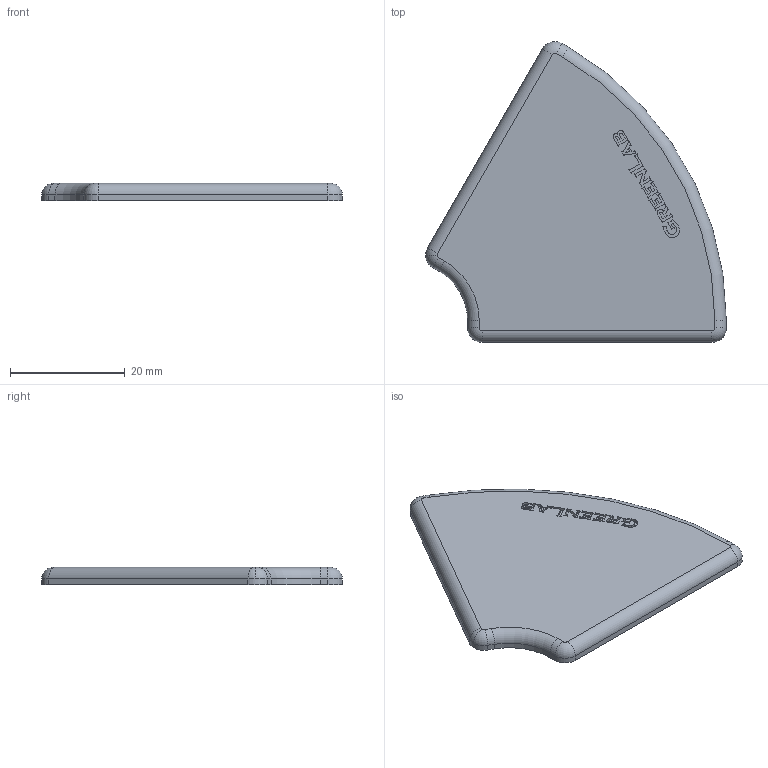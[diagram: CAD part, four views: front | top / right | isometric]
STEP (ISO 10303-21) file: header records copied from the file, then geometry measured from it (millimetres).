
FILE_DESCRIPTION (( 'STEP AP214' ), '1' );
FILE_NAME ('1.1019 Päätysuoja 45 R 60.STEP', '2023-12-04T13:05:10', ( '' ), ( '' ), 'SwSTEP 2.0', 'SolidWorks 2019', '' );
FILE_SCHEMA (( 'AUTOMOTIVE_DESIGN' ));
Length unit declared in the file: millimetre
Products named in the file (1): 1.1019 Päätysuoja 45 R 60
Bounding box: 52.32 x 52.32 x 3 mm (x, y, z)
Volume: 5434.1 mm3; surface area: 4139.3 mm2
Topology: 1 solids, 1 shells, 249 faces, 693 edges, 458 vertices
Faces by surface type: plane 145, bspline 85, cylinder 12, torus 7
Entity records: 10580 total; most frequent: CARTESIAN_POINT 4718, ORIENTED_EDGE 1386, DIRECTION 886, EDGE_CURVE 693, LINE 490, VECTOR 490, VERTEX_POINT 458, EDGE_LOOP 261
